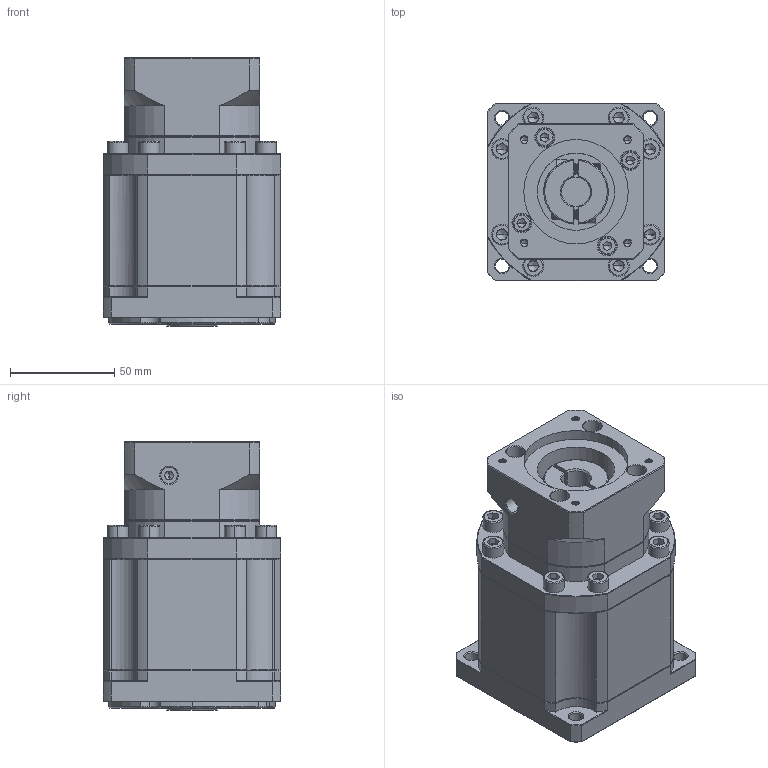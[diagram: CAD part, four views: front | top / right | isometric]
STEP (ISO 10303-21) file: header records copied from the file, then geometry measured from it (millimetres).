
FILE_DESCRIPTION (( 'STEP AP214' ), '1' );
FILE_NAME ('ZB90-K15-L3-14-50-70-M4.STEP', '2022-05-02T15:21:14', ( '' ), ( 'Microsoft' ), 'SwSTEP 2.0', 'SolidWorks 2016', '' );
FILE_SCHEMA (( 'AUTOMOTIVE_DESIGN' ));
Length unit declared in the file: millimetre
Products named in the file (1): ZB90-K15-L3-14-50-70-M4
Bounding box: 85 x 85 x 128.5 mm (x, y, z)
Volume: 646692.7 mm3; surface area: 80693.1 mm2
Topology: 6 solids, 6 shells, 2021 faces, 5305 edges, 3374 vertices
Faces by surface type: plane 998, cylinder 367, bspline 318, cone 316, torus 22
Entity records: 100994 total; most frequent: CARTESIAN_POINT 31395, ORIENTED_EDGE 10522, DIRECTION 8756, EDGE_CURVE 5261, VERTEX_POINT 3374, VECTOR 3258, LINE 3258, AXIS2_PLACEMENT_3D 2749
